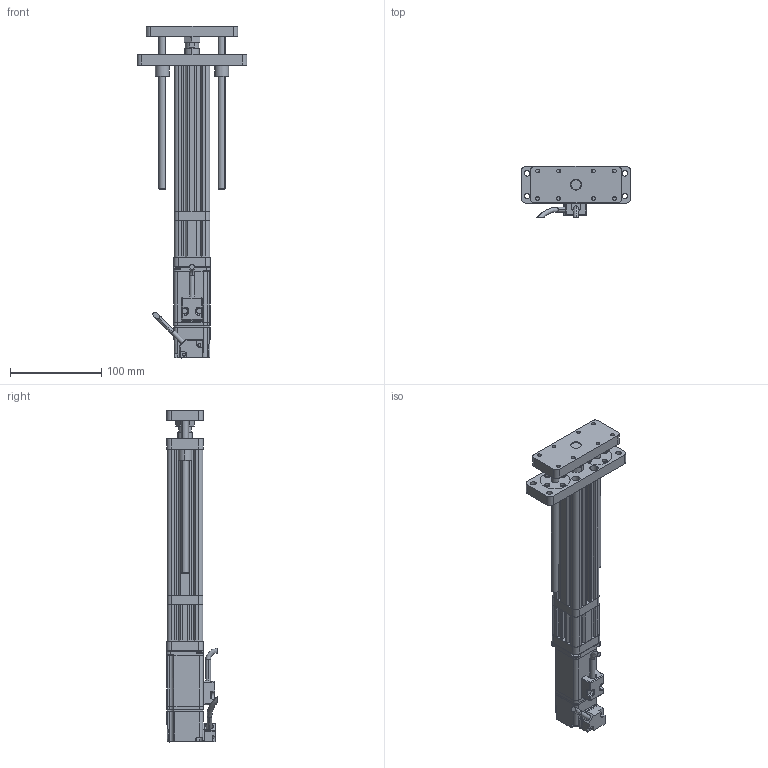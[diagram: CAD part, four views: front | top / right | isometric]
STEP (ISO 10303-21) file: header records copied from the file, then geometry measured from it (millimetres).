
FILE_DESCRIPTION (( 'STEP AP214' ), '1' );
FILE_NAME ('039-S100-D02-A-M3-C5-2.STEP', '2021-03-02T05:45:34', ( '' ), ( '' ), 'SwSTEP 2.0', 'SolidWorks 2018', '' );
FILE_SCHEMA (( 'AUTOMOTIVE_DESIGN' ));
Length unit declared in the file: millimetre
Products named in the file (12): GB／T6172．1-2000六角薄螺母A级和B级M12; CMC039-DT; CMC039-FL; CMC039-AZB; CMC039-DZ; CMC039-GT; LME01-d8; 039-S100-D02-A-M3-C5-2; CMC039-DJZ; CMC039-DB; ECMA-CX0401ES-40框號系列機種-100W低慣量系列; CMC039-ZLLJB
Assembly tree (13 placements, depth 2):
  039-S100-D02-A-M3-C5-2
    CMC039-GT
    CMC039-FL
    CMC039-DT
    LME01-d8  x2
    CMC039-DB
    GB／T6172．1-2000六角薄螺母A级和B级M12
    CMC039-DZ  x2
    CMC039-AZB
    CMC039-DJZ
    CMC039-ZLLJB
    ECMA-CX0401ES-40框號系列機種-100W低慣量系列
Bounding box: 120 x 55.39 x 363.6 mm (x, y, z)
Volume: 487501.9 mm3; surface area: 155263 mm2
Topology: 13 solids, 21 shells, 867 faces, 2244 edges, 1415 vertices
Faces by surface type: cylinder 384, plane 328, bspline 88, cone 67
Entity records: 32022 total; most frequent: CARTESIAN_POINT 11934, ORIENTED_EDGE 4230, DIRECTION 3647, EDGE_CURVE 2115, VERTEX_POINT 1356, AXIS2_PLACEMENT_3D 1292, LINE 1063, VECTOR 1063
